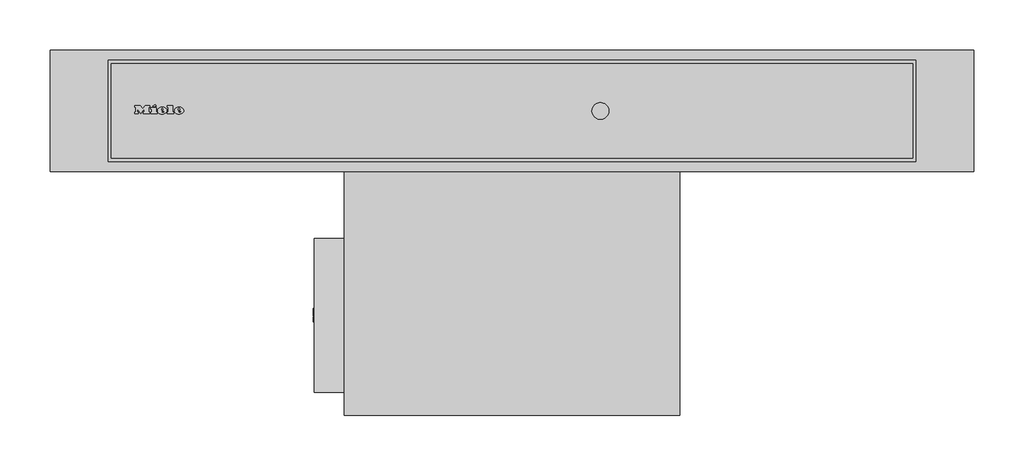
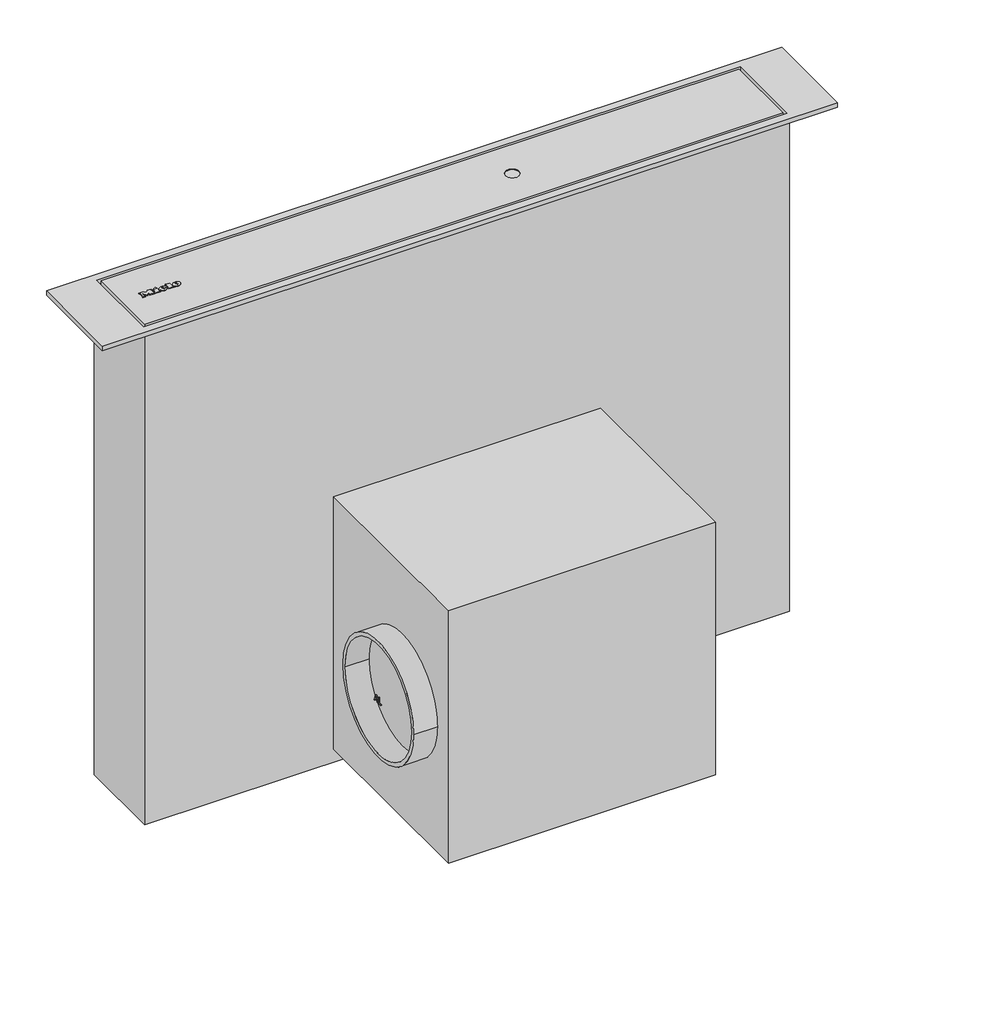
# Not in any storey: 1 proxy.
"""IFC4 building model written with IfcOpenShell, lengths in millimetres."""

from ifc_helpers import new_model, si_unit, origin, place, context, project, spatial, transform, mapped, element, save
from components import specialty_equipment_7af3c462

model = new_model("IFC4")

# Units and contexts
model_context = context("Model", 3, world=origin())
ifc_project = project(units=[si_unit("LENGTHUNIT", "METRE", prefix="MILLI")], contexts=[model_context])

# Site, building
site = spatial("IfcSite", under=ifc_project)
building = spatial("IfcBuilding", under=site)

# Proxy
placement = place(None, origin())
specialty_equipment_shape = specialty_equipment_7af3c462(model_context)
element("IfcBuildingElementProxy", 1, Name="10595910_USA_DA6891_EDST : 28689150_USA_10595910_DA6891_EDST", ObjectType="10595910_USA_DA6891_EDST : 28689150_USA_10595910_DA6891_EDST", at=placement, inside=building, context=model_context, shape_type="MappedRepresentation", body=[
    mapped(specialty_equipment_shape, transform((0.0, 0.0, 0.0), x_axis=(1.0, 0.0, 0.0), y_axis=(0.0, 1.0, 0.0), z_axis=(0.0, 0.0, 1.0))),
])

save(model, "model.ifc")
